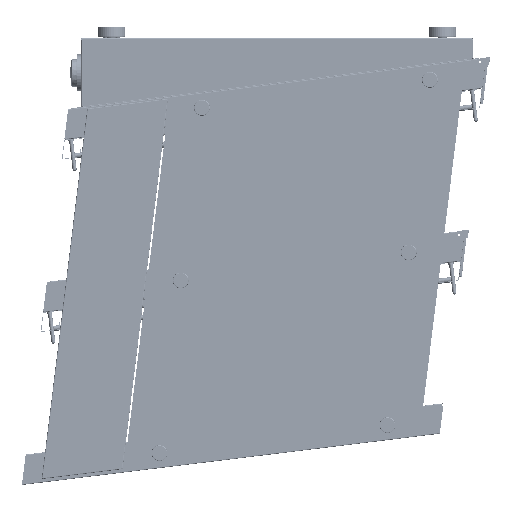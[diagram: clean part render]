
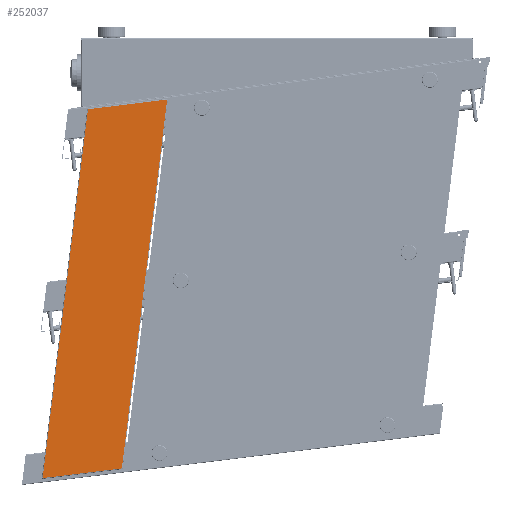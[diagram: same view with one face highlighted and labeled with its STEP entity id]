
A CAD part, left-side view. The second image highlights one B-rep face of the part: STEP entity #252037.
In plain terms, the highlighted planar face has unit normal (-1, 0, 0).
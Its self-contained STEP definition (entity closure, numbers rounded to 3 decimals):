
#8003 = DIRECTION ( 'NONE',  ( 0., -0.993, 0.122 ) ) ;
#11733 = LINE ( 'NONE', #127752, #157110 ) ;
#18684 = CARTESIAN_POINT ( 'NONE',  ( -275.1, -130.274, -40.382 ) ) ;
#65993 = VERTEX_POINT ( 'NONE', #18684 ) ;
#67801 = LINE ( 'NONE', #248429, #240936 ) ;
#71368 = DIRECTION ( 'NONE',  ( 0., 0.993, -0.122 ) ) ;
#79460 = VERTEX_POINT ( 'NONE', #223947 ) ;
#80820 = VECTOR ( 'NONE', #71368, 1000. ) ;
#106560 = FACE_OUTER_BOUND ( 'NONE', #331641, .T. ) ;
#117881 = LINE ( 'NONE', #232112, #241222 ) ;
#119220 = ORIENTED_EDGE ( 'NONE', *, *, #301609, .T. ) ;
#127752 = CARTESIAN_POINT ( 'NONE',  ( -275.1, 57.756, -612.159 ) ) ;
#131377 = CARTESIAN_POINT ( 'NONE',  ( -275.1, -70.611, -46.499 ) ) ;
#134056 = CARTESIAN_POINT ( 'NONE',  ( -275.1, -130.274, -40.382 ) ) ;
#153847 = ORIENTED_EDGE ( 'NONE', *, *, #288248, .F. ) ;
#156440 = VERTEX_POINT ( 'NONE', #296050 ) ;
#157110 = VECTOR ( 'NONE', #8003, 1000. ) ;
#165555 = PLANE ( 'NONE',  #306356 ) ;
#170500 = VERTEX_POINT ( 'NONE', #190646 ) ;
#185748 = DIRECTION ( 'NONE',  ( 0., -0.122, 0.993 ) ) ;
#190646 = CARTESIAN_POINT ( 'NONE',  ( -275.1, -61.873, -597.471 ) ) ;
#223947 = CARTESIAN_POINT ( 'NONE',  ( -275.1, 57.756, -612.159 ) ) ;
#232112 = CARTESIAN_POINT ( 'NONE',  ( -275.1, -130.274, -40.382 ) ) ;
#240936 = VECTOR ( 'NONE', #185748, 1000. ) ;
#241222 = VECTOR ( 'NONE', #260569, 1000. ) ;
#248429 = CARTESIAN_POINT ( 'NONE',  ( -275.1, 57.756, -612.159 ) ) ;
#251170 = DIRECTION ( 'NONE',  ( 0., 0.122, 0.993 ) ) ;
#252037 = ADVANCED_FACE ( 'NONE', ( #106560 ), #165555, .F. ) ;
#260569 = DIRECTION ( 'NONE',  ( 0., 0.122, -0.993 ) ) ;
#273343 = EDGE_CURVE ( 'NONE', #79460, #170500, #11733, .T. ) ;
#275996 = DIRECTION ( 'NONE',  ( 1., 0., 0. ) ) ;
#278665 = LINE ( 'NONE', #134056, #80820 ) ;
#288248 = EDGE_CURVE ( 'NONE', #79460, #156440, #67801, .T. ) ;
#295535 = ORIENTED_EDGE ( 'NONE', *, *, #323089, .F. ) ;
#296050 = CARTESIAN_POINT ( 'NONE',  ( -275.1, -10.646, -55.07 ) ) ;
#301609 = EDGE_CURVE ( 'NONE', #65993, #156440, #278665, .T. ) ;
#306356 = AXIS2_PLACEMENT_3D ( 'NONE', #131377, #275996, #251170 ) ;
#320692 = ORIENTED_EDGE ( 'NONE', *, *, #273343, .T. ) ;
#323089 = EDGE_CURVE ( 'NONE', #65993, #170500, #117881, .T. ) ;
#331641 = EDGE_LOOP ( 'NONE', ( #153847, #320692, #295535, #119220 ) ) ;
